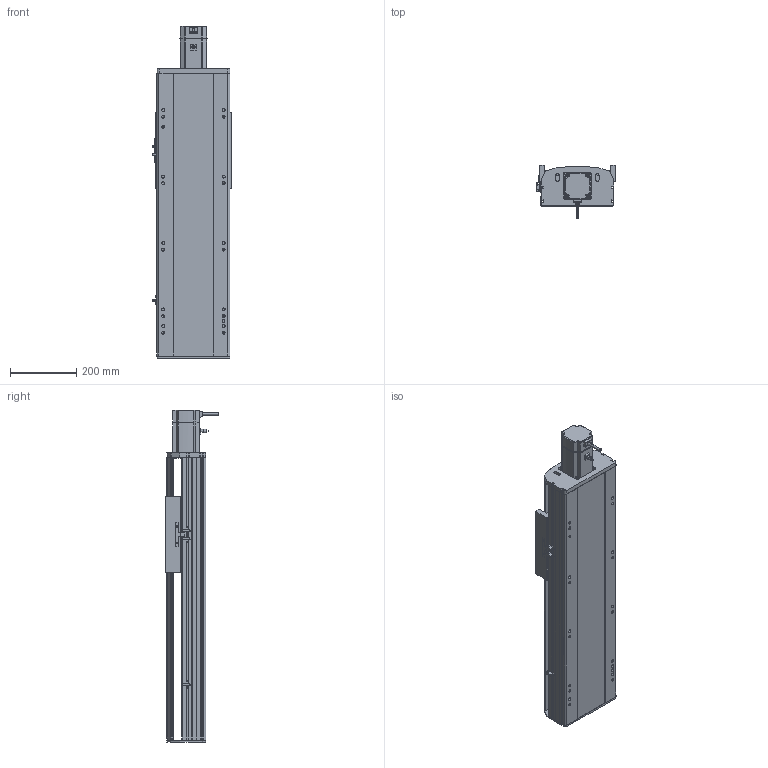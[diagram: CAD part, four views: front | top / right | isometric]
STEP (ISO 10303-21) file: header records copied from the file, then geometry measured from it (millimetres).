
FILE_DESCRIPTION (( 'STEP AP214' ), '1' );
FILE_NAME ('RTH22-XX-450-E-M75-C4.STEP', '2025-10-24T10:43:08', ( 'Microsoft' ), ( 'Microsoft' ), 'SwSTEP 2.0', 'SolidWorks 2018', '' );
FILE_SCHEMA (( 'AUTOMOTIVE_DESIGN' ));
Length unit declared in the file: millimetre
Products named in the file (9): N_RTH22-E-008萇儂啣^RTH22-XX-XX-E-M75-C4; N_RTH22-GY-001耜裔^RTH22-XX-XX-E-M75-C4; N_RTH22-GY-013外置感应片^RTH22-XX-XX-E-M75-C4; RTH22-XX-450-E-M75-C4; N_750W萇儂^RTH22-XX-XX-E-M75-C4; N_RTH22-E-011菁釱^RTH22-XX-XX-E-M75-C4; N_OMRON EE-SX672 传感器^RTH22-XX-XX-E-M75-C4; N_RTH22-E-007奻裔^RTH22-XX-XX-E-M75-C4; N_RTH22-E-004-SFS25賑釱^RTH22-XX-XX-E-M75-C4
Assembly tree (10 placements, depth 2):
  RTH22-XX-450-E-M75-C4
    N_RTH22-E-011菁釱^RTH22-XX-XX-E-M75-C4
    N_RTH22-GY-001耜裔^RTH22-XX-XX-E-M75-C4
    N_RTH22-E-008萇儂啣^RTH22-XX-XX-E-M75-C4
    N_RTH22-E-007奻裔^RTH22-XX-XX-E-M75-C4
    N_RTH22-GY-013外置感应片^RTH22-XX-XX-E-M75-C4
    N_RTH22-E-004-SFS25賑釱^RTH22-XX-XX-E-M75-C4
    N_750W萇儂^RTH22-XX-XX-E-M75-C4
    N_OMRON EE-SX672 传感器^RTH22-XX-XX-E-M75-C4  x3
Bounding box: 238.5 x 160.7 x 999 mm (x, y, z)
Volume: 12990585.2 mm3; surface area: 1375613.7 mm2
Topology: 10 solids, 10 shells, 1505 faces, 4124 edges, 2669 vertices
Faces by surface type: plane 752, cylinder 424, bspline 279, cone 50
Entity records: 37203 total; most frequent: CARTESIAN_POINT 11737, ORIENTED_EDGE 5240, DIRECTION 4886, EDGE_CURVE 2620, VERTEX_POINT 1705, AXIS2_PLACEMENT_3D 1630, VECTOR 1626, LINE 1626
